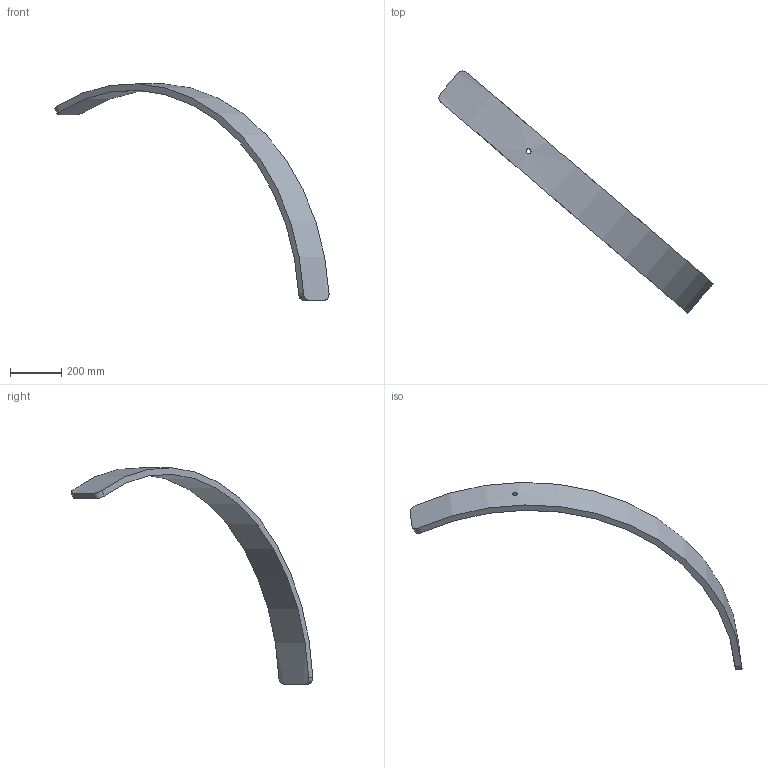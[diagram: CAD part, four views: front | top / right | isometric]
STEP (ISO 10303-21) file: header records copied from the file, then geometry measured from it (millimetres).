
FILE_DESCRIPTION (( 'STEP AP214' ), '1' );
FILE_NAME ('Section 8 AR.STEP', '2025-01-09T19:43:28', ( '' ), ( '' ), 'SwSTEP 2.0', 'SolidWorks 2024', '' );
FILE_SCHEMA (( 'AUTOMOTIVE_DESIGN' ));
Length unit declared in the file: inch
Products named in the file (1): Section 8 AR
Bounding box: 1066.3 x 940.74 x 843.15 mm (x, y, z)
Volume: 6720578.9 mm3; surface area: 625843.4 mm2
Topology: 1 solids, 1 shells, 11 faces, 27 edges, 18 vertices
Faces by surface type: cylinder 7, plane 4
Full cylindrical faces by diameter (mm): 19.431 x1
Entity records: 745 total; most frequent: CARTESIAN_POINT 470, ORIENTED_EDGE 52, DIRECTION 44, EDGE_CURVE 26, VERTEX_POINT 18, AXIS2_PLACEMENT_3D 16, EDGE_LOOP 14, FACE_OUTER_BOUND 12
